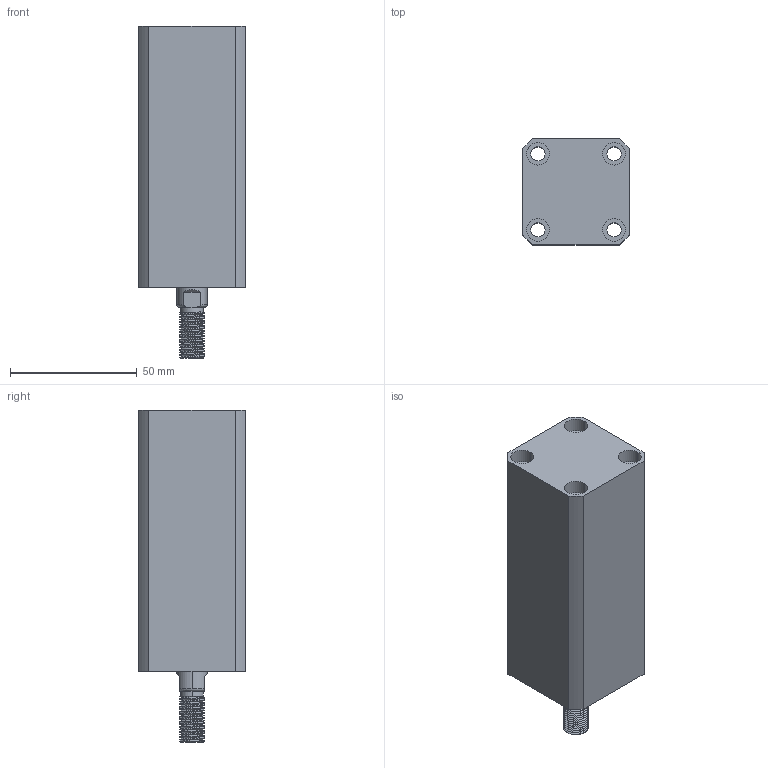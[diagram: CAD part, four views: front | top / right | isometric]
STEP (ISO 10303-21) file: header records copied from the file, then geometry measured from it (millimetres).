
FILE_DESCRIPTION (( 'STEP AP214' ), '1' );
FILE_NAME ('chtb-sd20x60w_asm.STEP', '2018-05-16T09:43:59', ( 'Windows' ), ( 'Microsoft' ), 'SwSTEP 2.0', 'SolidWorks 2015', '' );
FILE_SCHEMA (( 'AUTOMOTIVE_DESIGN' ));
Length unit declared in the file: millimetre
Products named in the file (4): chtb-sd20x60w_asm; CHTB-SD20X60NBT; QG; CHTB-SD20X60WHSG
Assembly tree (3 placements, depth 2):
  chtb-sd20x60w_asm
    CHTB-SD20X60NBT
    CHTB-SD20X60WHSG
    QG
Bounding box: 42 x 42 x 131 mm (x, y, z)
Volume: 154014.1 mm3; surface area: 45055.4 mm2
Topology: 3 solids, 3 shells, 234 faces, 624 edges, 415 vertices
Faces by surface type: cylinder 139, plane 40, torus 25, bspline 21, cone 9
Entity records: 13734 total; most frequent: CARTESIAN_POINT 8172, ORIENTED_EDGE 1240, DIRECTION 1039, EDGE_CURVE 620, AXIS2_PLACEMENT_3D 431, VERTEX_POINT 415, EDGE_LOOP 271, ADVANCED_FACE 234
